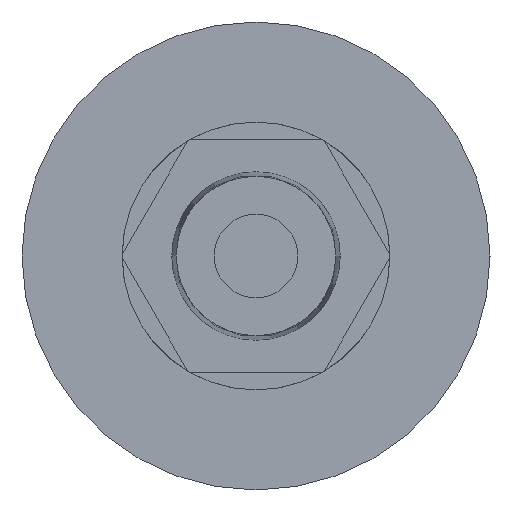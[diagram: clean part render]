
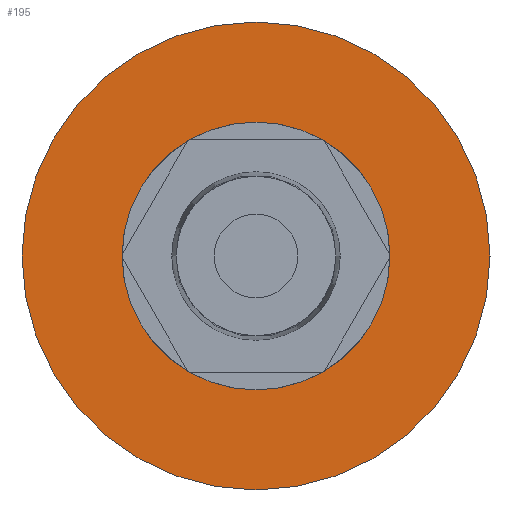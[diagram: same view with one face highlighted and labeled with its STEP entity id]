
A CAD part, left-side view. The second image highlights one B-rep face of the part: STEP entity #195.
In plain terms, the highlighted planar face has unit normal (-1, 0, 0).
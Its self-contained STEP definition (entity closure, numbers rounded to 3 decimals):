
#195=ADVANCED_FACE('',(#397,#398),#399,.T.);
#397=FACE_OUTER_BOUND('',#598,.T.);
#398=FACE_BOUND('',#599,.T.);
#399=PLANE('',#600);
#598=EDGE_LOOP('',(#1080,#1081));
#599=EDGE_LOOP('',(#1082,#1083));
#600=AXIS2_PLACEMENT_3D('',#1084,#1085,#1086);
#1080=ORIENTED_EDGE('',*,*,#1137,.F.);
#1081=ORIENTED_EDGE('',*,*,#1310,.F.);
#1082=ORIENTED_EDGE('',*,*,#1156,.T.);
#1083=ORIENTED_EDGE('',*,*,#1308,.T.);
#1084=CARTESIAN_POINT('',(21.7,14.975,0.0));
#1085=DIRECTION('',(-1.0,0.0,0.0));
#1086=DIRECTION('',(0.0,0.0,1.0));
#1137=EDGE_CURVE('',#1339,#1342,#1343,.T.);
#1156=EDGE_CURVE('',#1349,#1377,#1379,.T.);
#1308=EDGE_CURVE('',#1377,#1349,#1590,.T.);
#1310=EDGE_CURVE('',#1342,#1339,#1592,.T.);
#1339=VERTEX_POINT('',#1692);
#1342=VERTEX_POINT('',#1696);
#1343=CIRCLE('',#1697,19.05);
#1349=VERTEX_POINT('',#1704);
#1377=VERTEX_POINT('',#1739);
#1379=CIRCLE('',#1742,10.9);
#1590=CIRCLE('',#2065,10.9);
#1592=CIRCLE('',#2067,19.05);
#1692=CARTESIAN_POINT('',(21.7,19.05,0.0));
#1696=CARTESIAN_POINT('',(21.7,-19.05,0.));
#1697=AXIS2_PLACEMENT_3D('',#2086,#2087,#2088);
#1704=CARTESIAN_POINT('',(21.7,10.9,0.0));
#1739=CARTESIAN_POINT('',(21.7,-10.9,0.));
#1742=AXIS2_PLACEMENT_3D('',#2122,#2123,#2124);
#2065=AXIS2_PLACEMENT_3D('',#2322,#2323,#2324);
#2067=AXIS2_PLACEMENT_3D('',#2325,#2326,#2327);
#2086=CARTESIAN_POINT('',(21.7,0.0,0.0));
#2087=DIRECTION('',(1.0,0.0,0.0));
#2088=DIRECTION('',(0.0,1.0,0.0));
#2122=CARTESIAN_POINT('',(21.7,0.0,0.0));
#2123=DIRECTION('',(1.0,0.0,0.0));
#2124=DIRECTION('',(0.0,1.0,0.0));
#2322=CARTESIAN_POINT('',(21.7,0.0,0.0));
#2323=DIRECTION('',(1.0,0.0,0.0));
#2324=DIRECTION('',(0.0,1.0,0.0));
#2325=CARTESIAN_POINT('',(21.7,0.0,0.0));
#2326=DIRECTION('',(1.0,0.0,0.0));
#2327=DIRECTION('',(0.0,1.0,0.0));
